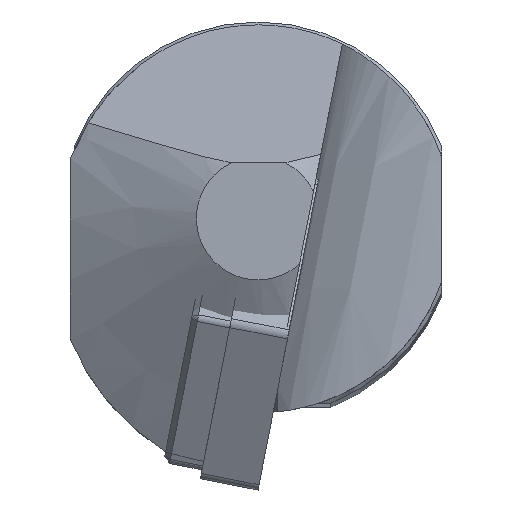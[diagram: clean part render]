
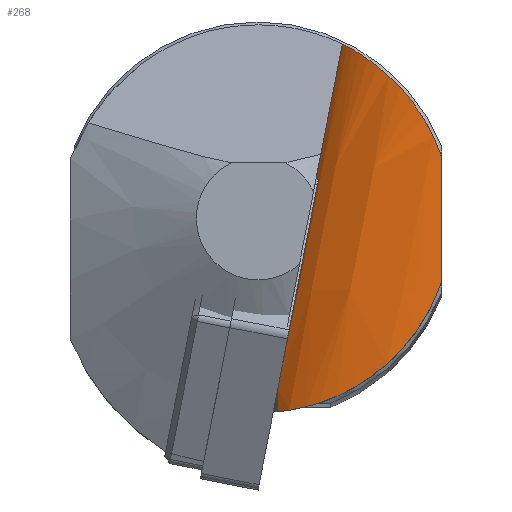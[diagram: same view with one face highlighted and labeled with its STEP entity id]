
A CAD part, top view. The second image highlights one B-rep face of the part: STEP entity #268.
In plain terms, the highlighted free-form (B-spline) face has degree [3, 3] with [4, 16] control points.
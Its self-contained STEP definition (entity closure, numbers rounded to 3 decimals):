
#106=B_SPLINE_SURFACE_WITH_KNOTS('',3,3,((#1706,#1707,#1708,#1709,#1710,
#1711,#1712,#1713,#1714,#1715,#1716,#1717,#1718,#1719,#1720,#1721),(#1722,
#1723,#1724,#1725,#1726,#1727,#1728,#1729,#1730,#1731,#1732,#1733,#1734,
#1735,#1736,#1737),(#1738,#1739,#1740,#1741,#1742,#1743,#1744,#1745,#1746,
#1747,#1748,#1749,#1750,#1751,#1752,#1753),(#1754,#1755,#1756,#1757,#1758,
#1759,#1760,#1761,#1762,#1763,#1764,#1765,#1766,#1767,#1768,#1769)),
 .UNSPECIFIED.,.F.,.F.,.F.,(4,4),(4,1,2,1,1,2,1,1,2,1,4),(0.,1.),(0.,0.14,
0.25,0.28,0.42,0.5,0.56,0.707,0.75,0.853,1.),
 .UNSPECIFIED.);
#107=B_SPLINE_CURVE_WITH_KNOTS('',3,(#1674,#1675,#1676,#1677),
 .UNSPECIFIED.,.F.,.F.,(4,4),(0.,1.),.UNSPECIFIED.);
#108=B_SPLINE_CURVE_WITH_KNOTS('',3,(#1680,#1681,#1682,#1683,#1684,#1685,
#1686,#1687,#1688,#1689),.UNSPECIFIED.,.F.,.F.,(4,2,2,2,4),(0.,0.25,0.5,
0.75,1.),.UNSPECIFIED.);
#109=B_SPLINE_CURVE_WITH_KNOTS('',3,(#1691,#1692,#1693,#1694),
 .UNSPECIFIED.,.F.,.F.,(4,4),(0.,1.),.UNSPECIFIED.);
#110=B_SPLINE_CURVE_WITH_KNOTS('',3,(#1696,#1697,#1698,#1699,#1700,#1701,
#1702,#1703),.UNSPECIFIED.,.F.,.F.,(4,2,2,4),(0.,0.25,0.5,1.),
 .UNSPECIFIED.);
#268=ADVANCED_FACE('',(#354),#106,.T.);
#354=FACE_OUTER_BOUND('',#417,.T.);
#417=EDGE_LOOP('',(#554,#555,#556,#557,#558));
#554=ORIENTED_EDGE('',*,*,#915,.T.);
#555=ORIENTED_EDGE('',*,*,#916,.T.);
#556=ORIENTED_EDGE('',*,*,#917,.F.);
#557=ORIENTED_EDGE('',*,*,#918,.T.);
#558=ORIENTED_EDGE('',*,*,#919,.T.);
#798=VERTEX_POINT('',#1678);
#799=VERTEX_POINT('',#1679);
#800=VERTEX_POINT('',#1690);
#801=VERTEX_POINT('',#1695);
#802=VERTEX_POINT('',#1704);
#915=EDGE_CURVE('',#798,#799,#107,.T.);
#916=EDGE_CURVE('',#799,#800,#108,.T.);
#917=EDGE_CURVE('',#801,#800,#109,.T.);
#918=EDGE_CURVE('',#801,#802,#110,.T.);
#919=EDGE_CURVE('',#802,#798,#1051,.T.);
#1051=LINE('',#1705,#1123);
#1123=VECTOR('',#1385,1.);
#1385=DIRECTION('',(-0.191,-0.982,0.));
#1674=CARTESIAN_POINT('',(1.821,-11.597,-23.404));
#1675=CARTESIAN_POINT('',(1.565,-12.913,-24.996));
#1676=CARTESIAN_POINT('',(1.494,-14.253,-26.574));
#1677=CARTESIAN_POINT('',(1.609,-15.617,-28.139));
#1678=CARTESIAN_POINT('',(1.821,-11.597,-23.404));
#1679=CARTESIAN_POINT('',(1.609,-15.617,-28.139));
#1680=CARTESIAN_POINT('',(1.609,-15.617,-28.139));
#1681=CARTESIAN_POINT('',(2.092,-15.568,-30.09));
#1682=CARTESIAN_POINT('',(2.894,-15.469,-31.973));
#1683=CARTESIAN_POINT('',(5.005,-14.921,-35.333));
#1684=CARTESIAN_POINT('',(6.348,-14.453,-36.837));
#1685=CARTESIAN_POINT('',(9.201,-12.827,-39.203));
#1686=CARTESIAN_POINT('',(10.683,-11.668,-40.063));
#1687=CARTESIAN_POINT('',(13.206,-8.711,-41.211));
#1688=CARTESIAN_POINT('',(14.228,-6.935,-41.51));
#1689=CARTESIAN_POINT('',(14.872,-5.032,-41.633));
#1690=CARTESIAN_POINT('',(14.872,-5.032,-41.633));
#1691=CARTESIAN_POINT('',(14.872,5.032,-40.619));
#1692=CARTESIAN_POINT('',(14.872,1.682,-41.004));
#1693=CARTESIAN_POINT('',(14.872,-1.673,-41.339));
#1694=CARTESIAN_POINT('',(14.872,-5.032,-41.633));
#1695=CARTESIAN_POINT('',(14.872,5.032,-40.619));
#1696=CARTESIAN_POINT('',(14.872,5.032,-40.619));
#1697=CARTESIAN_POINT('',(14.289,6.753,-40.076));
#1698=CARTESIAN_POINT('',(13.419,8.3,-39.278));
#1699=CARTESIAN_POINT('',(11.508,10.795,-37.097));
#1700=CARTESIAN_POINT('',(10.495,11.728,-35.729));
#1701=CARTESIAN_POINT('',(7.899,13.744,-31.041));
#1702=CARTESIAN_POINT('',(6.823,14.14,-27.238));
#1703=CARTESIAN_POINT('',(6.823,14.14,-23.404));
#1704=CARTESIAN_POINT('',(6.823,14.14,-23.404));
#1705=CARTESIAN_POINT('',(11.67,39.071,-23.404));
#1706=CARTESIAN_POINT('',(11.67,39.071,-23.404));
#1707=CARTESIAN_POINT('',(11.67,39.071,-24.585));
#1708=CARTESIAN_POINT('',(11.861,39.071,-26.763));
#1709=CARTESIAN_POINT('',(12.432,39.071,-28.965));
#1710=CARTESIAN_POINT('',(12.852,39.071,-30.185));
#1711=CARTESIAN_POINT('',(13.396,39.071,-31.66));
#1712=CARTESIAN_POINT('',(14.47,39.071,-33.768));
#1713=CARTESIAN_POINT('',(15.697,39.071,-35.464));
#1714=CARTESIAN_POINT('',(16.538,39.071,-36.495));
#1715=CARTESIAN_POINT('',(17.847,39.071,-37.961));
#1716=CARTESIAN_POINT('',(19.669,39.071,-39.482));
#1717=CARTESIAN_POINT('',(21.157,39.071,-40.423));
#1718=CARTESIAN_POINT('',(22.32,39.071,-41.11));
#1719=CARTESIAN_POINT('',(24.36,39.071,-42.12));
#1720=CARTESIAN_POINT('',(26.458,39.071,-42.753));
#1721=CARTESIAN_POINT('',(27.67,39.071,-43.));
#1722=CARTESIAN_POINT('',(6.508,12.515,-23.404));
#1723=CARTESIAN_POINT('',(6.508,12.515,-24.585));
#1724=CARTESIAN_POINT('',(6.699,12.515,-26.763));
#1725=CARTESIAN_POINT('',(7.27,12.515,-28.965));
#1726=CARTESIAN_POINT('',(7.69,12.515,-30.185));
#1727=CARTESIAN_POINT('',(8.234,12.515,-31.66));
#1728=CARTESIAN_POINT('',(9.308,12.515,-33.768));
#1729=CARTESIAN_POINT('',(10.535,12.515,-35.464));
#1730=CARTESIAN_POINT('',(11.376,12.515,-36.495));
#1731=CARTESIAN_POINT('',(12.685,12.515,-37.961));
#1732=CARTESIAN_POINT('',(14.507,12.515,-39.482));
#1733=CARTESIAN_POINT('',(15.995,12.515,-40.423));
#1734=CARTESIAN_POINT('',(17.158,12.515,-41.11));
#1735=CARTESIAN_POINT('',(19.198,12.515,-42.12));
#1736=CARTESIAN_POINT('',(21.296,12.515,-42.753));
#1737=CARTESIAN_POINT('',(22.508,12.515,-43.));
#1738=CARTESIAN_POINT('',(1.345,-14.041,-23.404));
#1739=CARTESIAN_POINT('',(1.345,-14.041,-24.585));
#1740=CARTESIAN_POINT('',(1.537,-14.041,-26.763));
#1741=CARTESIAN_POINT('',(2.108,-14.041,-28.965));
#1742=CARTESIAN_POINT('',(2.528,-14.041,-30.185));
#1743=CARTESIAN_POINT('',(3.072,-14.041,-31.66));
#1744=CARTESIAN_POINT('',(4.146,-14.041,-33.768));
#1745=CARTESIAN_POINT('',(5.373,-14.041,-35.464));
#1746=CARTESIAN_POINT('',(6.214,-14.041,-36.495));
#1747=CARTESIAN_POINT('',(7.523,-14.041,-37.961));
#1748=CARTESIAN_POINT('',(9.345,-14.041,-39.482));
#1749=CARTESIAN_POINT('',(10.833,-14.041,-40.423));
#1750=CARTESIAN_POINT('',(11.996,-14.041,-41.11));
#1751=CARTESIAN_POINT('',(14.036,-14.041,-42.12));
#1752=CARTESIAN_POINT('',(16.134,-14.041,-42.753));
#1753=CARTESIAN_POINT('',(17.345,-14.041,-43.));
#1754=CARTESIAN_POINT('',(-3.817,-40.598,-23.404));
#1755=CARTESIAN_POINT('',(-3.817,-40.598,-24.585));
#1756=CARTESIAN_POINT('',(-3.625,-40.598,-26.763));
#1757=CARTESIAN_POINT('',(-3.054,-40.598,-28.965));
#1758=CARTESIAN_POINT('',(-2.634,-40.598,-30.185));
#1759=CARTESIAN_POINT('',(-2.09,-40.598,-31.66));
#1760=CARTESIAN_POINT('',(-1.016,-40.598,-33.768));
#1761=CARTESIAN_POINT('',(0.211,-40.598,-35.464));
#1762=CARTESIAN_POINT('',(1.052,-40.598,-36.495));
#1763=CARTESIAN_POINT('',(2.361,-40.598,-37.961));
#1764=CARTESIAN_POINT('',(4.183,-40.598,-39.482));
#1765=CARTESIAN_POINT('',(5.671,-40.598,-40.423));
#1766=CARTESIAN_POINT('',(6.834,-40.598,-41.11));
#1767=CARTESIAN_POINT('',(8.874,-40.598,-42.12));
#1768=CARTESIAN_POINT('',(10.972,-40.598,-42.753));
#1769=CARTESIAN_POINT('',(12.183,-40.598,-43.));
